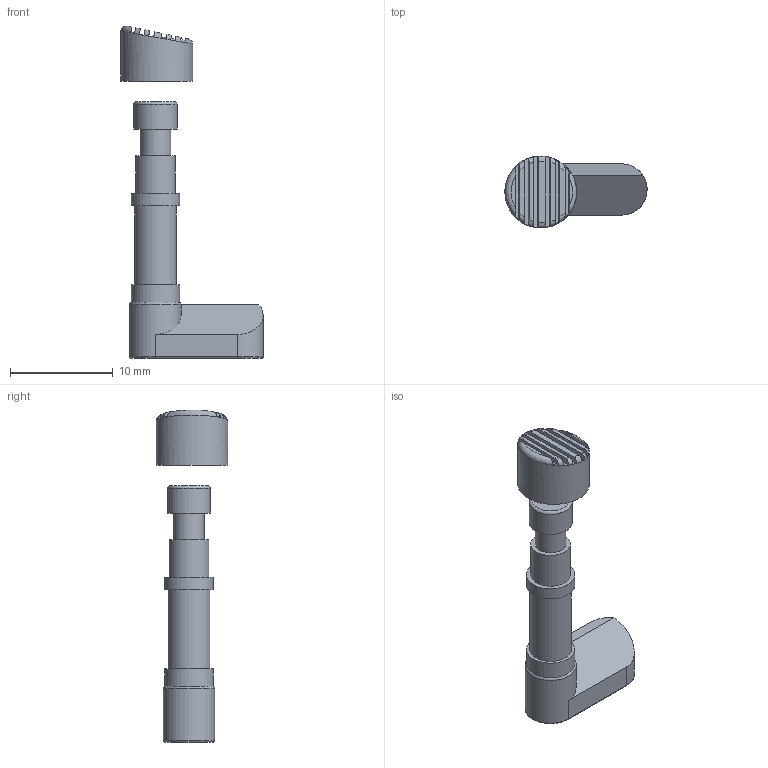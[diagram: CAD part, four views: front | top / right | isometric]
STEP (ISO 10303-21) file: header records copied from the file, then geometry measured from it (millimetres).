
FILE_DESCRIPTION(/* description */ (''),/* implementation_level */ '2;1');
FILE_NAME(/* name */ '//vboxsvr/bigsql-win-testing/CAD/Freeman Frame Alpha-accessories/MyDesigns/C9-mag-release v7.step',/* time_stamp */ '2021-03-10T06:17:40-08:00',/* author */ (''),/* organization */ (''),/* preprocessor_version */ 'ST-DEVELOPER v18.1',/* originating_system */ 'Autodesk Translation Framework v9.7.1.1290',/* authorisation */ '');
FILE_SCHEMA (('AUTOMOTIVE_DESIGN { 1 0 10303 214 3 1 1 }'));
Length unit declared in the file: millimetre
Products named in the file (1): C9-mag-release
Bounding box: 13.88 x 7 x 32.37 mm (x, y, z)
Volume: 644.1 mm3; surface area: 902.3 mm2
Topology: 3 solids, 3 shells, 239 faces, 655 edges, 429 vertices
Faces by surface type: plane 199, cylinder 29, torus 8, bspline 2, cone 1
Full cylindrical faces by diameter (mm): 2.7 x1, 3 x1, 3.87 x1, 4.08 x1, 4.2 x2, 4.7 x1, 4.74 x1, 5 x1, 7 x1
Entity records: 8529 total; most frequent: CARTESIAN_POINT 2418, ORIENTED_EDGE 1310, DIRECTION 1217, EDGE_CURVE 655, LINE 453, VECTOR 453, VERTEX_POINT 429, AXIS2_PLACEMENT_3D 382
